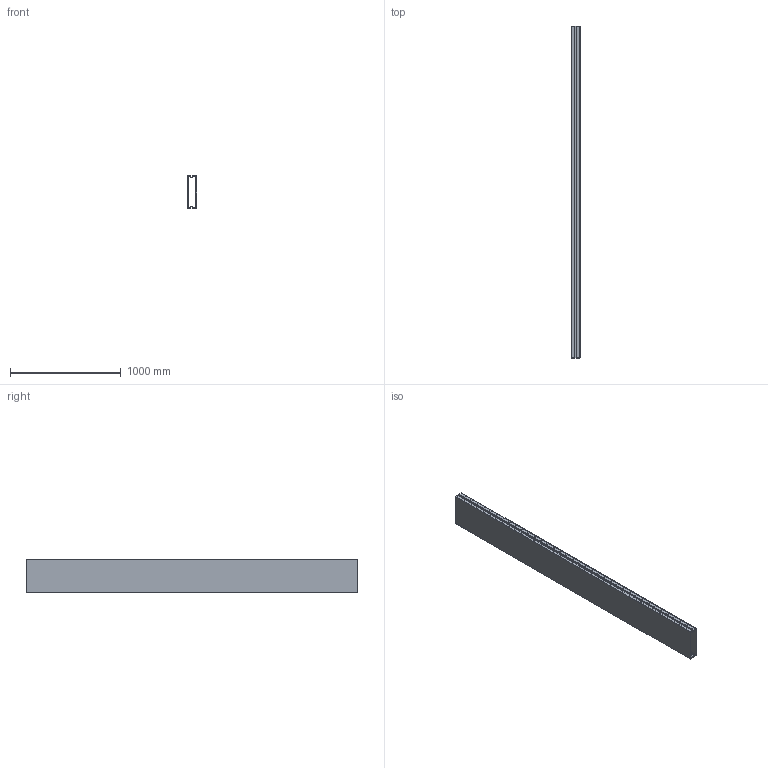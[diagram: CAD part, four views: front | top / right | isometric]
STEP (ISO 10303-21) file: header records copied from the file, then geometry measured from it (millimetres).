
FILE_DESCRIPTION (( 'STEP AP203' ), '1' );
FILE_NAME ('FBCB 3A300_Kette oben_44188.STEP', '2026-05-28T11:00:33', ( '' ), ( '' ), 'SwSTEP 2.0', 'SolidWorks 2024', '' );
FILE_SCHEMA (( 'CONFIG_CONTROL_DESIGN' ));
Length unit declared in the file: millimetre
Products named in the file (1): FBCB 3A300_Kette oben_44188
Bounding box: 82.5 x 3000 x 300 mm (x, y, z)
Volume: 16196119.3 mm3; surface area: 4747209.6 mm2
Topology: 1 solids, 1 shells, 109 faces, 321 edges, 214 vertices
Faces by surface type: plane 104, cylinder 5
Entity records: 3646 total; most frequent: CARTESIAN_POINT 645, ORIENTED_EDGE 642, DIRECTION 551, EDGE_CURVE 321, LINE 311, VECTOR 311, VERTEX_POINT 214, AXIS2_PLACEMENT_3D 120
